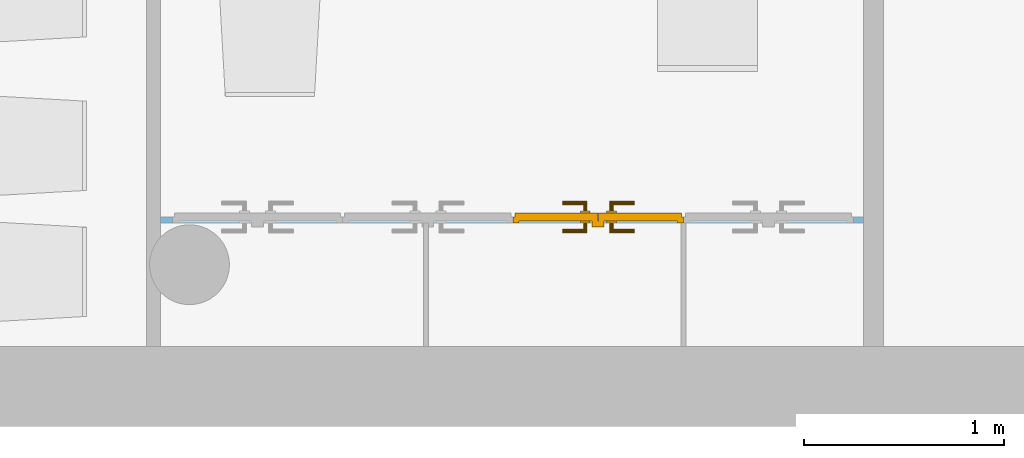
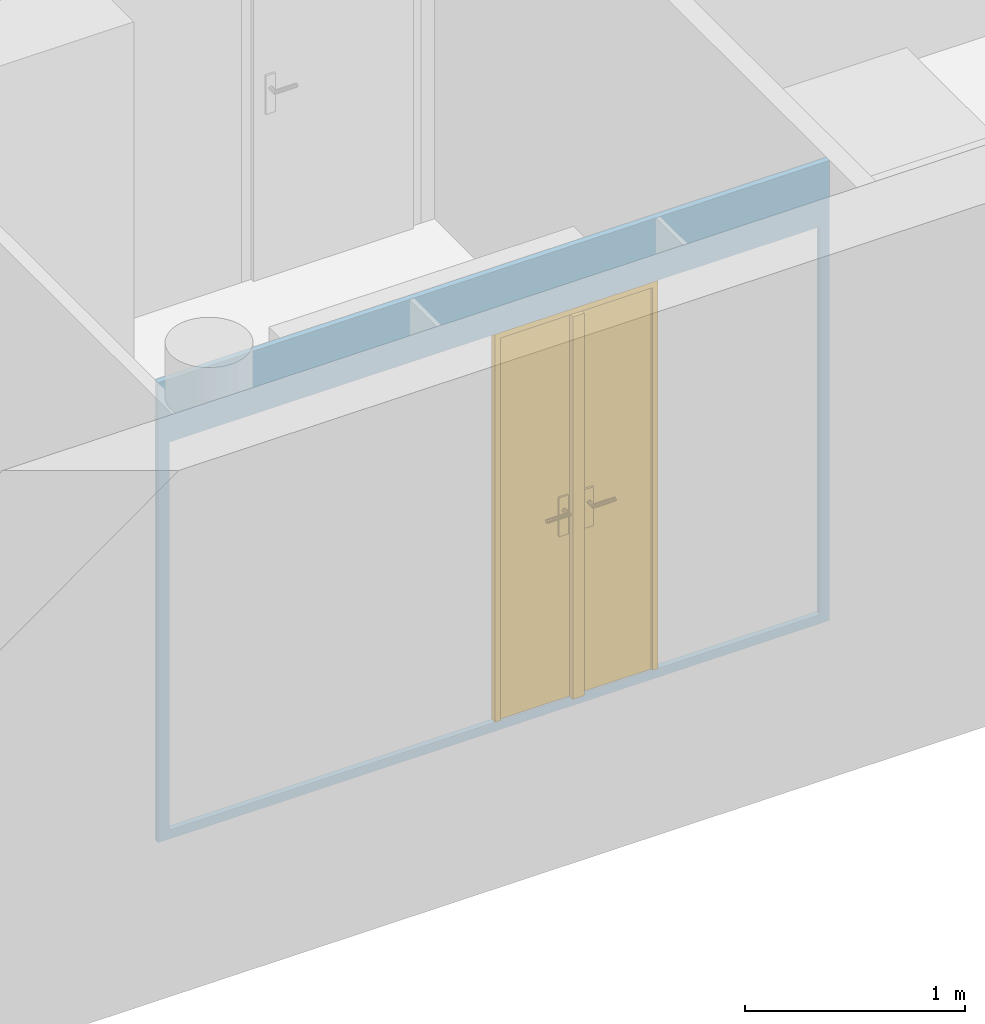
"""IFC4 building model written with IfcOpenShell, lengths in metres."""

import ifcopenshell
import ifcopenshell.guid

model = None  # the IFC model being written
_history = None  # IfcOwnerHistory: only IFC2X3 demands one
_inside = {}  # id of a spatial element -> (the spatial element, [elements in it])
_under = {}  # id of a project, library or spatial element -> (it, [spatial elements below it])
_declared = {}  # id of a project -> (the project, [libraries it declares])
_typed = {}  # id of a type object -> (the type object, [elements of that type])
_made_of = {}  # id of a material, layer set ... -> (it, [elements and type objects made of it])


def new_model(schema):
    """Start an empty IFC model of exactly this schema.

    Asked for "IFC4X3", IfcOpenShell would pick the latest addendum, in which some entities
    have other attributes; the version numbers below select the first issue.
    IFC2X3 requires an IfcOwnerHistory on every rooted entity: one is made here for all.
    """
    global model, _history
    if schema == "IFC4X3":
        model = ifcopenshell.file(schema_version=(4, 3, 0, 0))
    else:
        model = ifcopenshell.file(schema=schema)
    _inside.clear()
    _under.clear()
    _declared.clear()
    _typed.clear()
    _made_of.clear()
    _history = None
    if model.schema == "IFC2X3":
        org = make("IfcOrganization", Name="unknown")
        user = make(
            "IfcPersonAndOrganization",
            ThePerson=make("IfcPerson", FamilyName="unknown"),
            TheOrganization=org,
        )
        app = make(
            "IfcApplication",
            ApplicationDeveloper=org,
            Version="unknown",
            ApplicationFullName="unknown",
            ApplicationIdentifier="unknown",
        )
        _history = make(
            "IfcOwnerHistory",
            OwningUser=user,
            OwningApplication=app,
            ChangeAction="ADDED",
            CreationDate=0,
        )
    return model


def make(cls, **values):
    """One entity of the class cls with the attributes given. An attribute that is None is left unset."""
    return model.create_entity(
        cls, **{name: value for name, value in values.items() if value is not None}
    )


def entity(cls, *values):
    """Any entity or typed value of the class cls, its attributes in the order of the schema. None: left unset."""
    e = model.create_entity(cls)
    for i, value in enumerate(values):
        if value is not None:
            e[i] = value
    return e


def rooted(cls, **values):
    """An entity with a GlobalId (a new one), such as an element, a storey or a relation."""
    return make(cls, GlobalId=ifcopenshell.guid.new(), OwnerHistory=_history, **values)


def si_unit(unit_type, name, prefix=None):
    """IfcSIUnit, for example si_unit("LENGTHUNIT", "METRE", prefix="MILLI")."""
    return make("IfcSIUnit", UnitType=unit_type, Prefix=prefix, Name=name)


def converted_unit(unit_type, name, factor, base, dimensions=None, offset=None):
    """IfcConversionBasedUnit, such as the inch: factor (a typed value) times the base unit."""
    return make(
        "IfcConversionBasedUnit"
        if offset is None
        else "IfcConversionBasedUnitWithOffset",
        ConversionOffset=offset,
        Dimensions=None
        if dimensions is None
        else entity("IfcDimensionalExponents", *dimensions),
        UnitType=unit_type,
        Name=name,
        ConversionFactor=make(
            "IfcMeasureWithUnit", ValueComponent=factor, UnitComponent=base
        ),
    )


def derived_unit(unit_type, elements):
    """IfcDerivedUnit: a product of units, each with its exponent."""
    return make(
        "IfcDerivedUnit",
        Elements=[
            make("IfcDerivedUnitElement", Unit=unit, Exponent=power)
            for unit, power in elements
        ],
        UnitType=unit_type,
    )


def assignment(units):
    """IfcUnitAssignment: the units of a project."""
    return None if units is None else make("IfcUnitAssignment", Units=units)


def point(xyz):
    """IfcCartesianPoint."""
    return None if xyz is None else make("IfcCartesianPoint", Coordinates=xyz)


def direction(xyz):
    """IfcDirection."""
    return None if xyz is None else make("IfcDirection", DirectionRatios=xyz)


def frame(location, z_axis=None, x_axis=None):
    """IfcAxis2Placement3D, a coordinate frame: its origin and axes. An axis left out is left unset."""
    return make(
        "IfcAxis2Placement3D",
        Location=point(location),
        Axis=direction(z_axis),
        RefDirection=direction(x_axis),
    )


def frame_2d(location, x_axis=None):
    """IfcAxis2Placement2D, a coordinate frame in the plane: its origin and x axis."""
    return make(
        "IfcAxis2Placement2D", Location=point(location), RefDirection=direction(x_axis)
    )


def origin():
    """The frame at (0, 0, 0) with its axes left unset."""
    return frame((0.0, 0.0, 0.0))


def origin_with_axes():
    """The frame at (0, 0, 0) with the z axis (0, 0, 1) and the x axis (1, 0, 0) written out."""
    return frame((0.0, 0.0, 0.0), z_axis=(0.0, 0.0, 1.0), x_axis=(1.0, 0.0, 0.0))


def place(relative_to, where):
    """IfcLocalPlacement: puts the frame where relative to a parent placement (None: the world)."""
    return make(
        "IfcLocalPlacement", PlacementRelTo=relative_to, RelativePlacement=where
    )


def context(
    kind, dimensions, precision=None, world=None, true_north=None, identifier=None
):
    """IfcGeometricRepresentationContext, for example the 3D "Model" context."""
    return make(
        "IfcGeometricRepresentationContext",
        ContextIdentifier=identifier,
        ContextType=kind,
        CoordinateSpaceDimension=dimensions,
        Precision=precision,
        WorldCoordinateSystem=world,
        TrueNorth=true_north,
    )


def subcontext(parent, identifier, kind, view, scale=None):
    """IfcGeometricRepresentationSubContext, for example "Body" below "Model"."""
    return make(
        "IfcGeometricRepresentationSubContext",
        ContextIdentifier=identifier,
        ContextType=kind,
        ParentContext=parent,
        TargetScale=scale,
        TargetView=view,
    )


def project(units=None, contexts=None):
    """IfcProject with its units and contexts."""
    return rooted(
        "IfcProject",
        Name="project",
        RepresentationContexts=contexts,
        UnitsInContext=assignment(units),
    )


def spatial(cls, under=None, at=None, **own):
    """A site, building, storey or space (cls), placed at a placement, below another one or the project."""
    s = rooted(cls, ObjectPlacement=at, **own)
    if under is not None:
        _under.setdefault(under.id(), (under, []))[1].append(s)
    return s


def polyline(points):
    """IfcPolyline through the points."""
    return make("IfcPolyline", Points=[point(p) for p in points])


def profile(cls, at=None, kind="AREA", **sizes):
    """A parametric profile (cls). Its sizes go by their IFC names, for example OverallWidth=200.0."""
    return make(cls, ProfileType=kind, Position=at, **sizes)


def rectangle(**sizes):
    """IfcRectangleProfileDef."""
    return profile("IfcRectangleProfileDef", **sizes)


def outline(outer, holes=None, kind="AREA"):
    """IfcArbitraryClosedProfileDef: a profile drawn as a closed curve; with holes, ...WithVoids."""
    if holes is None:
        return make("IfcArbitraryClosedProfileDef", ProfileType=kind, OuterCurve=outer)
    return make(
        "IfcArbitraryProfileDefWithVoids",
        ProfileType=kind,
        OuterCurve=outer,
        InnerCurves=holes,
    )


def extrude(swept, where, along, depth):
    """IfcExtrudedAreaSolid: the profile swept, set in the frame where, extruded along a direction by depth."""
    return make(
        "IfcExtrudedAreaSolid",
        SweptArea=swept,
        Position=where,
        ExtrudedDirection=direction(along),
        Depth=depth,
    )


def faces_of(points, faces, orient=None, outer=None):
    """IfcFace entities. A face is a list of loops; a loop is a list of indices into points, from 0.

    orient and outer hold one flag for each loop. By default every Orientation is true, the
    first loop of a face is its IfcFaceOuterBound and the others are IfcFaceBound.
    """
    made = []
    for i, loops in enumerate(faces):
        bounds = []
        for j, loop in enumerate(loops):
            is_outer = j == 0 if outer is None else outer[i][j]
            bounds.append(
                make(
                    "IfcFaceOuterBound" if is_outer else "IfcFaceBound",
                    Bound=make("IfcPolyLoop", Polygon=[points[k] for k in loop]),
                    Orientation=True if orient is None else orient[i][j],
                )
            )
        made.append(make("IfcFace", Bounds=bounds))
    return made


def faceted_brep(points, faces, orient=None, outer=None, voids=None):
    """IfcFacetedBrep: a solid bounded by flat faces; with voids (closed shells), ...WithVoids."""
    shared = [point(p) for p in points]
    hull = make("IfcClosedShell", CfsFaces=faces_of(shared, faces, orient, outer))
    if voids is None:
        return make("IfcFacetedBrep", Outer=hull)
    return make(
        "IfcFacetedBrepWithVoids",
        Outer=hull,
        Voids=[
            make(cls, CfsFaces=faces_of(shared, fs, o, b)) for cls, fs, o, b in voids
        ],
    )


def shape(context_of_items, identifier, shape_type, items):
    """IfcShapeRepresentation: the items that make up one representation, for example the "Body"."""
    return make(
        "IfcShapeRepresentation",
        ContextOfItems=context_of_items,
        RepresentationIdentifier=identifier,
        RepresentationType=shape_type,
        Items=items,
    )


def source(mapping_origin, context_of_items, identifier, shape_type, items):
    """IfcRepresentationMap: a shape defined once, which mapped items show again and again."""
    return make(
        "IfcRepresentationMap",
        MappingOrigin=mapping_origin,
        MappedRepresentation=shape(context_of_items, identifier, shape_type, items),
    )


def transform(
    local_origin,
    x_axis=None,
    y_axis=None,
    z_axis=None,
    scale=None,
    scale2=None,
    scale3=None,
    uniform=True,
):
    """IfcCartesianTransformationOperator3D, or its non-uniform kind. x_axis, y_axis, z_axis: its Axis1, 2, 3."""
    if uniform:
        return make(
            "IfcCartesianTransformationOperator3D",
            Axis1=direction(x_axis),
            Axis2=direction(y_axis),
            LocalOrigin=point(local_origin),
            Scale=scale,
            Axis3=direction(z_axis),
        )
    return make(
        "IfcCartesianTransformationOperator3DnonUniform",
        Axis1=direction(x_axis),
        Axis2=direction(y_axis),
        LocalOrigin=point(local_origin),
        Scale=scale,
        Axis3=direction(z_axis),
        Scale2=scale2,
        Scale3=scale3,
    )


def mapped(mapping_source, mapping_target):
    """IfcMappedItem: shows the shape of a source again, moved by a transform."""
    return make(
        "IfcMappedItem", MappingSource=mapping_source, MappingTarget=mapping_target
    )


def material(Name=None, Category=None):
    """IfcMaterial."""
    return make("IfcMaterial", Name=Name, Category=Category)


def layer(
    of_material, thickness, ventilated=None, Name=None, Category=None, Priority=None
):
    """IfcMaterialLayer: one layer of a wall or slab, of a material (None: an air gap)."""
    return make(
        "IfcMaterialLayer",
        Material=of_material,
        LayerThickness=thickness,
        IsVentilated=ventilated,
        Name=Name,
        Category=Category,
        Priority=Priority,
    )


def layer_set(layers, Name=None):
    """IfcMaterialLayerSet."""
    return make("IfcMaterialLayerSet", MaterialLayers=layers, LayerSetName=Name)


def layer_usage(for_layer_set, set_direction, sense, offset, extent=None):
    """IfcMaterialLayerSetUsage: how a layer set lies in its element."""
    return make(
        "IfcMaterialLayerSetUsage",
        ForLayerSet=for_layer_set,
        LayerSetDirection=set_direction,
        DirectionSense=sense,
        OffsetFromReferenceLine=offset,
        ReferenceExtent=extent,
    )


def made_of(thing, what):
    """Note that an element or type object is made of a material, layer set ...; save() writes the relation."""
    if what is not None:
        _made_of.setdefault(what.id(), (what, []))[1].append(thing)
    return thing


def element(
    cls,
    number,
    at=None,
    inside=None,
    cuts=None,
    type_object=None,
    material=None,
    context=None,
    identifier="Body",
    shape_type=None,
    held_by="IfcProductDefinitionShape",
    body=None,
    shapes=None,
    **own,
):
    """One element of the class cls, such as IfcWall. Its Tag is "e" and its number.

    at: its placement. inside: the storey or other place that contains it. cuts: it is an
    opening in that element (IfcRelVoidsElement). A single representation is given by context,
    identifier, shape_type and body (its items); several are given by shapes. held_by: the class
    of the entity that holds the representations. save() writes the other relations.
    """
    e = rooted(cls, Tag="e%d" % number, ObjectPlacement=at, **own)
    if body is not None:
        shapes = [shape(context, identifier, shape_type, body)]
    if shapes is not None:
        e.Representation = make(held_by, Representations=shapes)
    if inside is not None:
        _inside.setdefault(inside.id(), (inside, []))[1].append(e)
    if cuts is not None:
        rooted(
            "IfcRelVoidsElement", RelatingBuildingElement=cuts, RelatedOpeningElement=e
        )
    if type_object is not None:
        _typed.setdefault(type_object.id(), (type_object, []))[1].append(e)
    return made_of(e, material)


def fill(opening, filler):
    """IfcRelFillsElement: the door or window that sits in an opening."""
    return rooted(
        "IfcRelFillsElement",
        RelatingOpeningElement=opening,
        RelatedBuildingElement=filler,
    )


def aggregate(whole, parts):
    """IfcRelAggregates: a whole, such as a stair, and the parts it consists of."""
    return rooted("IfcRelAggregates", RelatingObject=whole, RelatedObjects=parts)


def save(model, path):
    """Write the relations noted so far, then the file.

    IfcRelAggregates (storeys below a building ...), IfcRelContainedInSpatialStructure (elements
    in a storey), IfcRelDefinesByType, IfcRelAssociatesMaterial and IfcRelDeclares: one each for
    every whole, place, type object, material and project.
    """
    for whole, parts in _under.values():
        aggregate(whole, parts)
    for where, things in _inside.values():
        rooted(
            "IfcRelContainedInSpatialStructure",
            RelatedElements=things,
            RelatingStructure=where,
        )
    for kind, things in _typed.values():
        rooted("IfcRelDefinesByType", RelatedObjects=things, RelatingType=kind)
    for what, things in _made_of.values():
        rooted("IfcRelAssociatesMaterial", RelatedObjects=things, RelatingMaterial=what)
    for by, libraries in _declared.values():
        rooted("IfcRelDeclares", RelatingContext=by, RelatedDefinitions=libraries)
    model.write(path)


model = new_model("IFC4")

# Units and contexts
model_context = context("Model", 3, precision=1e-05, world=origin())
body_context = subcontext(model_context, "Body", "Model", "MODEL_VIEW")
ifc_project = project(units=[si_unit("LENGTHUNIT", "METRE"), si_unit("AREAUNIT", "SQUARE_METRE"), si_unit("VOLUMEUNIT", "CUBIC_METRE"), si_unit("MASSUNIT", "GRAM", prefix="KILO"), converted_unit("PLANEANGLEUNIT", "DEGREE", entity("IfcPlaneAngleMeasure", 0.0174532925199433), si_unit("PLANEANGLEUNIT", "RADIAN"), dimensions=[0, 0, 0, 0, 0, 0, 0]), derived_unit("THERMALTRANSMITTANCEUNIT", [(si_unit("POWERUNIT", "WATT"), 1), (si_unit("THERMODYNAMICTEMPERATUREUNIT", "KELVIN"), -1), (si_unit("LENGTHUNIT", "METRE"), -2)]), derived_unit("VOLUMETRICFLOWRATEUNIT", [(si_unit("LENGTHUNIT", "METRE"), 3), (converted_unit("TIMEUNIT", "hour", entity("IfcTimeMeasure", 3600.0), si_unit("TIMEUNIT", "SECOND"), dimensions=[0, 0, 1, 0, 0, 0, 0]), -1), (si_unit("LENGTHUNIT", "METRE"), -1)])], contexts=[model_context])

# Building, storeys
building_placement = place(None, origin())
building = spatial("IfcBuilding", under=ifc_project, at=building_placement, Name="HABITATGE PLURIFAMILIAR", CompositionType="ELEMENT")
storey_1_placement = place(building_placement, frame((0.0, 0.0, 3.35)))
storey_1 = spatial("IfcBuildingStorey", under=building, at=storey_1_placement, Name="PLANTA  ALTELL", CompositionType="ELEMENT", Elevation=3.35)
storey_2_placement = place(storey_1_placement, origin())
storey_2 = spatial("IfcBuildingStorey", under=storey_1, at=storey_2_placement, Name="NOU", CompositionType="PARTIAL")

# Wall, openings, door
ifc_material = material()
ifc_layer = layer(ifc_material, 0.03)
ifc_layer_set = layer_set([ifc_layer])
ifc_layer_usage = layer_usage(ifc_layer_set, "AXIS2", "POSITIVE", 0.0)
wall_placement = place(storey_2_placement, frame((409.212081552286, 13.8895914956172, -0.05), z_axis=(0.0, 0.0, 1.0), x_axis=(-1.0, 0.0, 0.0)))
wall = element("IfcWall", 1, at=wall_placement, inside=storey_2, material=ifc_layer_usage, Name="Evans PA", context=body_context, shape_type="SweptSolid", body=[
    extrude(rectangle(XDim=3.51996309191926, YDim=0.03, at=frame_2d((1.75998154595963, 0.015), x_axis=(1.0, 0.0))), origin_with_axes(), (0.0, 0.0, 1.0), 2.55),
])
opening_1_placement = place(wall_placement, frame((2.60764991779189, 0.0, 0.05), z_axis=(0.0, 1.0, 0.0), x_axis=(0.0, 0.0, 1.0)))
element("IfcOpeningElement", 2, at=opening_1_placement, cuts=wall, Name="Vano de puerta PA", ObjectType="Opening", context=body_context, shape_type="SweptSolid", body=[
    extrude(outline(polyline([(2.15, 0.852499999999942), (2.15, 0.0), (0.0, 0.0), (0.0, 0.852499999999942), (2.15, 0.852499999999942)])), origin_with_axes(), (0.0, 0.0, 1.0), 0.03),
])
opening_2_placement = place(wall_placement, frame((0.900149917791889, 0.0, 0.05), z_axis=(0.0, 1.0, 0.0), x_axis=(0.0, 0.0, 1.0)))
opening_2 = element("IfcOpeningElement", 3, at=opening_2_placement, cuts=wall, Name="Vano de puerta PA", ObjectType="Opening", context=body_context, shape_type="SweptSolid", body=[
    extrude(outline(polyline([(2.15, 0.854999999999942), (2.15, 0.0), (0.0, 0.0), (0.0, 0.854999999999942), (2.15, 0.854999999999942)])), origin_with_axes(), (0.0, 0.0, 1.0), 0.03),
])
opening_3_placement = place(wall_placement, frame((1.75514991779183, 0.0, 0.05), z_axis=(0.0, 1.0, 0.0), x_axis=(0.0, 0.0, 1.0)))
element("IfcOpeningElement", 4, at=opening_3_placement, cuts=wall, Name="Vano de puerta PA", ObjectType="Opening", context=body_context, shape_type="SweptSolid", body=[
    extrude(outline(polyline([(2.15, 0.8525), (2.15, 0.0), (0.0, 0.0), (0.0, 0.8525), (2.15, 0.8525)])), origin_with_axes(), (0.0, 0.0, 1.0), 0.03),
])
opening_4_placement = place(wall_placement, frame((0.900149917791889, 0.03, 0.05), z_axis=(0.0, -1.0, 0.0), x_axis=(0.0, 0.0, 1.0)))
element("IfcOpeningElement", 5, at=opening_4_placement, cuts=wall, Name="Vano de puerta PA", ObjectType="Opening", context=body_context, shape_type="SweptSolid", body=[
    extrude(outline(polyline([(2.15, 0.85), (2.15, 0.0), (0.0, 0.0), (0.0, 0.85), (2.15, 0.85)])), origin_with_axes(), (0.0, 0.0, 1.0), 0.03),
])
shared_shape = source(origin_with_axes(), body_context, "Body", "Brep", [
    faceted_brep([(0.0, 0.03, 2.15), (0.0, 0.03, 0.0), (0.03, 0.03, 0.0), (0.03, 0.03, 2.15), (0.0, 0.0, 0.0), (0.0, 0.0, 2.15), (0.03, 0.0, 2.15), (0.03, 0.0, 0.0)], [[[0, 1, 2, 3]], [[4, 5, 6, 7]], [[1, 0, 5, 4]], [[2, 1, 4, 7]], [[3, 2, 7, 6]], [[0, 3, 6, 5]]], orient=[[False], [False], [False], [False], [False], [False]]),
    faceted_brep([(0.824999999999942, 0.03, 2.15), (0.824999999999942, 0.03, 0.0), (0.854999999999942, 0.03, 0.0), (0.854999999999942, 0.03, 2.15), (0.824999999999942, 0.0, 0.0), (0.824999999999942, 0.0, 2.15), (0.854999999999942, 0.0, 2.15), (0.854999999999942, 0.0, 0.0)], [[[0, 1, 2, 3]], [[4, 5, 6, 7]], [[1, 0, 5, 4]], [[2, 1, 4, 7]], [[3, 2, 7, 6]], [[0, 3, 6, 5]]], orient=[[False], [False], [False], [False], [False], [False]]),
    faceted_brep([(0.03, 0.03, 2.15), (0.03, 0.03, 2.12), (0.824999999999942, 0.03, 2.12), (0.824999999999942, 0.03, 2.15), (0.03, 0.0, 2.12), (0.03, 0.0, 2.15), (0.824999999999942, 0.0, 2.15), (0.824999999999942, 0.0, 2.12)], [[[0, 1, 2, 3]], [[4, 5, 6, 7]], [[1, 0, 5, 4]], [[2, 1, 4, 7]], [[3, 2, 7, 6]], [[0, 3, 6, 5]]], orient=[[False], [False], [False], [False], [False], [False]]),
    faceted_brep([(0.01, 0.05, 2.14), (0.01, 0.05, 0.0), (0.426999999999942, 0.05, 0.0), (0.426999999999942, 0.05, 2.14), (0.01, 0.01, 0.0), (0.01, 0.01, 2.14), (0.426999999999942, 0.01, 2.14), (0.426999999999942, 0.01, 0.0)], [[[0, 1, 2, 3]], [[4, 5, 6, 7]], [[1, 0, 5, 4]], [[2, 1, 4, 7]], [[3, 2, 7, 6]], [[0, 3, 6, 5]]], orient=[[False], [False], [False], [False], [False], [False]]),
    faceted_brep([(0.396999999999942, 0.01, 2.12), (0.396999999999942, 0.01, 0.0), (0.456999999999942, 0.01, 0.0), (0.456999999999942, 0.01, 2.12), (0.396999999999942, -0.02, 0.0), (0.396999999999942, -0.02, 2.12), (0.456999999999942, -0.02, 2.12), (0.456999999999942, -0.02, 0.0)], [[[0, 1, 2, 3]], [[4, 5, 6, 7]], [[1, 0, 5, 4]], [[2, 1, 4, 7]], [[3, 2, 7, 6]], [[0, 3, 6, 5]]], orient=[[False], [False], [False], [False], [False], [False]]),
    faceted_brep([(0.336999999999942, 0.01, 1.125), (0.336999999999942, 0.01, 0.91), (0.386999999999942, 0.01, 0.91), (0.386999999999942, 0.01, 1.125), (0.336999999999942, 0.0, 0.91), (0.336999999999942, 0.0, 1.125), (0.386999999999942, 0.0, 1.125), (0.386999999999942, 0.0, 0.91)], [[[0, 1, 2, 3]], [[4, 5, 6, 7]], [[1, 0, 5, 4]], [[2, 1, 4, 7]], [[3, 2, 7, 6]], [[0, 3, 6, 5]]], orient=[[False], [False], [False], [False], [False], [False]]),
    faceted_brep([(0.361999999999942, 0.0, 1.06), (0.356999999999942, 0.0, 1.05866025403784), (0.353339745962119, 0.0, 1.055), (0.351999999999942, 0.0, 1.05), (0.353339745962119, 0.0, 1.045), (0.356999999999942, 0.0, 1.04133974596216), (0.361999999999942, 0.0, 1.04), (0.366999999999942, 0.0, 1.04133974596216), (0.370660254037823, 0.0, 1.045), (0.371999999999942, 0.0, 1.05), (0.370660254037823, 0.0, 1.055), (0.366999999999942, 0.0, 1.05866025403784), (0.366999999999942, -0.045, 1.05866025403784), (0.361999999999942, -0.04, 1.06), (0.370660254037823, -0.0486602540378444, 1.055), (0.371999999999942, -0.05, 1.05), (0.370660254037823, -0.0486602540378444, 1.045), (0.366999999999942, -0.045, 1.04133974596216), (0.361999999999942, -0.04, 1.04), (0.356999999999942, -0.035, 1.04133974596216), (0.353339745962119, -0.0313397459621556, 1.045), (0.351999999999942, -0.03, 1.05), (0.353339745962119, -0.0313397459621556, 1.055), (0.356999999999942, -0.035, 1.05866025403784), (0.246999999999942, -0.04, 1.06), (0.246999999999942, -0.045, 1.05866025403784), (0.246999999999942, -0.0486602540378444, 1.055), (0.246999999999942, -0.05, 1.05), (0.246999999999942, -0.0486602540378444, 1.045), (0.246999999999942, -0.045, 1.04133974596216), (0.246999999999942, -0.04, 1.04), (0.246999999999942, -0.035, 1.04133974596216), (0.246999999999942, -0.0313397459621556, 1.045), (0.246999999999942, -0.03, 1.05), (0.246999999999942, -0.0313397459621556, 1.055), (0.246999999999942, -0.035, 1.05866025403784)], [[[0, 1, 2, 3, 4, 5, 6, 7, 8, 9, 10, 11]], [[0, 11, 12, 13]], [[11, 10, 14, 12]], [[10, 9, 15, 14]], [[9, 8, 16, 15]], [[8, 7, 17, 16]], [[7, 6, 18, 17]], [[6, 5, 19, 18]], [[5, 4, 20, 19]], [[4, 3, 21, 20]], [[3, 2, 22, 21]], [[2, 1, 23, 22]], [[1, 0, 13, 23]], [[24, 25, 26, 27, 28, 29, 30, 31, 32, 33, 34, 35]], [[13, 12, 25, 24]], [[12, 14, 26, 25]], [[14, 15, 27, 26]], [[15, 16, 28, 27]], [[16, 17, 29, 28]], [[17, 18, 30, 29]], [[18, 19, 31, 30]], [[19, 20, 32, 31]], [[20, 21, 33, 32]], [[21, 22, 34, 33]], [[22, 23, 35, 34]], [[23, 13, 24, 35]]], orient=[[False], [False], [False], [False], [False], [False], [False], [False], [False], [False], [False], [False], [False], [False], [False], [False], [False], [False], [False], [False], [False], [False], [False], [False], [False], [False]]),
    faceted_brep([(0.336999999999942, 0.05, 1.125), (0.386999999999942, 0.05, 1.125), (0.386999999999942, 0.05, 0.91), (0.336999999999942, 0.05, 0.91), (0.336999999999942, 0.06, 0.91), (0.386999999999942, 0.06, 0.91), (0.386999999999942, 0.06, 1.125), (0.336999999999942, 0.06, 1.125)], [[[0, 1, 2, 3]], [[4, 5, 6, 7]], [[3, 4, 7, 0]], [[2, 5, 4, 3]], [[1, 6, 5, 2]], [[0, 7, 6, 1]]], orient=[[False], [False], [False], [False], [False], [False]]),
    faceted_brep([(0.361999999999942, 0.06, 1.06), (0.366999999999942, 0.06, 1.05866025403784), (0.370660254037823, 0.06, 1.055), (0.371999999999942, 0.06, 1.05), (0.370660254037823, 0.06, 1.045), (0.366999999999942, 0.06, 1.04133974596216), (0.361999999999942, 0.06, 1.04), (0.356999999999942, 0.06, 1.04133974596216), (0.353339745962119, 0.06, 1.045), (0.351999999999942, 0.06, 1.05), (0.353339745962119, 0.06, 1.055), (0.356999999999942, 0.06, 1.05866025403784), (0.361999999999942, 0.1, 1.06), (0.366999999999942, 0.105, 1.05866025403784), (0.370660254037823, 0.108660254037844, 1.055), (0.371999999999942, 0.11, 1.05), (0.370660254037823, 0.108660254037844, 1.045), (0.366999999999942, 0.105, 1.04133974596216), (0.361999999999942, 0.1, 1.04), (0.356999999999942, 0.095, 1.04133974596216), (0.353339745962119, 0.0913397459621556, 1.045), (0.351999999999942, 0.09, 1.05), (0.353339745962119, 0.0913397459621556, 1.055), (0.356999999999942, 0.095, 1.05866025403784), (0.247, 0.1, 1.06), (0.247, 0.095, 1.05866025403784), (0.247, 0.0913397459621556, 1.055), (0.247, 0.09, 1.05), (0.247, 0.0913397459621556, 1.045), (0.247, 0.095, 1.04133974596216), (0.247, 0.1, 1.04), (0.247, 0.105, 1.04133974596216), (0.247, 0.108660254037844, 1.045), (0.247, 0.11, 1.05), (0.247, 0.108660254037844, 1.055), (0.247, 0.105, 1.05866025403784)], [[[0, 1, 2, 3, 4, 5, 6, 7, 8, 9, 10, 11]], [[0, 12, 13, 1]], [[1, 13, 14, 2]], [[2, 14, 15, 3]], [[3, 15, 16, 4]], [[4, 16, 17, 5]], [[5, 17, 18, 6]], [[6, 18, 19, 7]], [[7, 19, 20, 8]], [[8, 20, 21, 9]], [[9, 21, 22, 10]], [[10, 22, 23, 11]], [[11, 23, 12, 0]], [[24, 25, 26, 27, 28, 29, 30, 31, 32, 33, 34, 35]], [[12, 24, 35, 13]], [[13, 35, 34, 14]], [[14, 34, 33, 15]], [[15, 33, 32, 16]], [[16, 32, 31, 17]], [[17, 31, 30, 18]], [[18, 30, 29, 19]], [[19, 29, 28, 20]], [[20, 28, 27, 21]], [[21, 27, 26, 22]], [[22, 26, 25, 23]], [[23, 25, 24, 12]]], orient=[[False], [False], [False], [False], [False], [False], [False], [False], [False], [False], [False], [False], [False], [False], [False], [False], [False], [False], [False], [False], [False], [False], [False], [False], [False], [False]]),
    faceted_brep([(0.427999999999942, 0.05, 2.14), (0.427999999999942, 0.05, 0.0), (0.844999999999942, 0.05, 0.0), (0.844999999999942, 0.05, 2.14), (0.427999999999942, 0.01, 0.0), (0.427999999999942, 0.01, 2.14), (0.844999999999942, 0.01, 2.14), (0.844999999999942, 0.01, 0.0)], [[[0, 1, 2, 3]], [[4, 5, 6, 7]], [[1, 0, 5, 4]], [[2, 1, 4, 7]], [[3, 2, 7, 6]], [[0, 3, 6, 5]]], orient=[[False], [False], [False], [False], [False], [False]]),
    faceted_brep([(0.467999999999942, 0.01, 1.125), (0.467999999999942, 0.01, 0.91), (0.517999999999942, 0.01, 0.91), (0.517999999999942, 0.01, 1.125), (0.467999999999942, 0.0, 0.91), (0.467999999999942, 0.0, 1.125), (0.517999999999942, 0.0, 1.125), (0.517999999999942, 0.0, 0.91)], [[[0, 1, 2, 3]], [[4, 5, 6, 7]], [[1, 0, 5, 4]], [[2, 1, 4, 7]], [[3, 2, 7, 6]], [[0, 3, 6, 5]]], orient=[[False], [False], [False], [False], [False], [False]]),
    faceted_brep([(0.492999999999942, 0.0, 1.06), (0.487999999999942, 0.0, 1.05866025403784), (0.484339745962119, 0.0, 1.055), (0.482999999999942, 0.0, 1.05), (0.484339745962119, 0.0, 1.045), (0.487999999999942, 0.0, 1.04133974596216), (0.492999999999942, 0.0, 1.04), (0.497999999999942, 0.0, 1.04133974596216), (0.501660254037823, 0.0, 1.045), (0.502999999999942, 0.0, 1.05), (0.501660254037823, 0.0, 1.055), (0.497999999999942, 0.0, 1.05866025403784), (0.492999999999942, -0.04, 1.06), (0.487999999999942, -0.045, 1.05866025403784), (0.484339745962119, -0.0486602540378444, 1.055), (0.482999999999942, -0.05, 1.05), (0.484339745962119, -0.0486602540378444, 1.045), (0.487999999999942, -0.045, 1.04133974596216), (0.492999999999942, -0.04, 1.04), (0.497999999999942, -0.035, 1.04133974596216), (0.501660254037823, -0.0313397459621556, 1.045), (0.502999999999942, -0.03, 1.05), (0.501660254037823, -0.0313397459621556, 1.055), (0.497999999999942, -0.035, 1.05866025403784), (0.607999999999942, -0.04, 1.06), (0.607999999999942, -0.035, 1.05866025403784), (0.607999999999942, -0.0313397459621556, 1.055), (0.607999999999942, -0.03, 1.05), (0.607999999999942, -0.0313397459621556, 1.045), (0.607999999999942, -0.035, 1.04133974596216), (0.607999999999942, -0.04, 1.04), (0.607999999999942, -0.045, 1.04133974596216), (0.607999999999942, -0.0486602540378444, 1.045), (0.607999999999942, -0.05, 1.05), (0.607999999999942, -0.0486602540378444, 1.055), (0.607999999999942, -0.045, 1.05866025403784)], [[[0, 1, 2, 3, 4, 5, 6, 7, 8, 9, 10, 11]], [[0, 12, 13, 1]], [[1, 13, 14, 2]], [[2, 14, 15, 3]], [[3, 15, 16, 4]], [[4, 16, 17, 5]], [[5, 17, 18, 6]], [[6, 18, 19, 7]], [[7, 19, 20, 8]], [[8, 20, 21, 9]], [[9, 21, 22, 10]], [[10, 22, 23, 11]], [[11, 23, 12, 0]], [[24, 25, 26, 27, 28, 29, 30, 31, 32, 33, 34, 35]], [[12, 24, 35, 13]], [[13, 35, 34, 14]], [[14, 34, 33, 15]], [[15, 33, 32, 16]], [[16, 32, 31, 17]], [[17, 31, 30, 18]], [[18, 30, 29, 19]], [[19, 29, 28, 20]], [[20, 28, 27, 21]], [[21, 27, 26, 22]], [[22, 26, 25, 23]], [[23, 25, 24, 12]]], orient=[[False], [False], [False], [False], [False], [False], [False], [False], [False], [False], [False], [False], [False], [False], [False], [False], [False], [False], [False], [False], [False], [False], [False], [False], [False], [False]]),
    faceted_brep([(0.467999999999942, 0.05, 1.125), (0.517999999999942, 0.05, 1.125), (0.517999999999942, 0.05, 0.91), (0.467999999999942, 0.05, 0.91), (0.467999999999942, 0.06, 0.91), (0.517999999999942, 0.06, 0.91), (0.517999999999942, 0.06, 1.125), (0.467999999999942, 0.06, 1.125)], [[[0, 1, 2, 3]], [[4, 5, 6, 7]], [[3, 4, 7, 0]], [[2, 5, 4, 3]], [[1, 6, 5, 2]], [[0, 7, 6, 1]]], orient=[[False], [False], [False], [False], [False], [False]]),
    faceted_brep([(0.492999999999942, 0.06, 1.06), (0.497999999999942, 0.06, 1.05866025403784), (0.501660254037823, 0.06, 1.055), (0.502999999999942, 0.06, 1.05), (0.501660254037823, 0.06, 1.045), (0.497999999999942, 0.06, 1.04133974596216), (0.492999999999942, 0.06, 1.04), (0.487999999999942, 0.06, 1.04133974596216), (0.484339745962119, 0.06, 1.045), (0.482999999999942, 0.06, 1.05), (0.484339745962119, 0.06, 1.055), (0.487999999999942, 0.06, 1.05866025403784), (0.487999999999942, 0.105, 1.05866025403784), (0.492999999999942, 0.1, 1.06), (0.484339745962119, 0.108660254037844, 1.055), (0.482999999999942, 0.11, 1.05), (0.484339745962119, 0.108660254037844, 1.045), (0.487999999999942, 0.105, 1.04133974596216), (0.492999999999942, 0.1, 1.04), (0.497999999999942, 0.095, 1.04133974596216), (0.501660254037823, 0.0913397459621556, 1.045), (0.502999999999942, 0.09, 1.05), (0.501660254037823, 0.0913397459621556, 1.055), (0.497999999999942, 0.095, 1.05866025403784), (0.607999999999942, 0.1, 1.06), (0.607999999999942, 0.105, 1.05866025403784), (0.607999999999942, 0.108660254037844, 1.055), (0.607999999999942, 0.11, 1.05), (0.607999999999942, 0.108660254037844, 1.045), (0.607999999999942, 0.105, 1.04133974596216), (0.607999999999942, 0.1, 1.04), (0.607999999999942, 0.095, 1.04133974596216), (0.607999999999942, 0.0913397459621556, 1.045), (0.607999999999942, 0.09, 1.05), (0.607999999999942, 0.0913397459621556, 1.055), (0.607999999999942, 0.095, 1.05866025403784)], [[[0, 1, 2, 3, 4, 5, 6, 7, 8, 9, 10, 11]], [[0, 11, 12, 13]], [[11, 10, 14, 12]], [[10, 9, 15, 14]], [[9, 8, 16, 15]], [[8, 7, 17, 16]], [[7, 6, 18, 17]], [[6, 5, 19, 18]], [[5, 4, 20, 19]], [[4, 3, 21, 20]], [[3, 2, 22, 21]], [[2, 1, 23, 22]], [[1, 0, 13, 23]], [[24, 25, 26, 27, 28, 29, 30, 31, 32, 33, 34, 35]], [[13, 12, 25, 24]], [[12, 14, 26, 25]], [[14, 15, 27, 26]], [[15, 16, 28, 27]], [[16, 17, 29, 28]], [[17, 18, 30, 29]], [[18, 19, 31, 30]], [[19, 20, 32, 31]], [[20, 21, 33, 32]], [[21, 22, 34, 33]], [[22, 23, 35, 34]], [[23, 13, 24, 35]]], orient=[[False], [False], [False], [False], [False], [False], [False], [False], [False], [False], [False], [False], [False], [False], [False], [False], [False], [False], [False], [False], [False], [False], [False], [False], [False], [False]]),
])
door_placement = place(opening_2_placement, frame((0.0, 0.854999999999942, 0.03), z_axis=(1.0, 0.0, 0.0), x_axis=(0.0, -1.0, 0.0)))
door = element("IfcDoor", 6, at=door_placement, inside=storey_2, Name="Porta PA", OperationType="USERDEFINED", OverallHeight=2.15, OverallWidth=0.855, PredefinedType="DOOR", context=body_context, shape_type="MappedRepresentation", body=[
    mapped(shared_shape, transform((0.0, 0.0, 0.0), x_axis=(1.0, 0.0, 0.0), y_axis=(0.0, 1.0, 0.0), z_axis=(0.0, 0.0, 1.0), scale=1.0)),
])
fill(opening_2, door)

save(model, "model.ifc")
